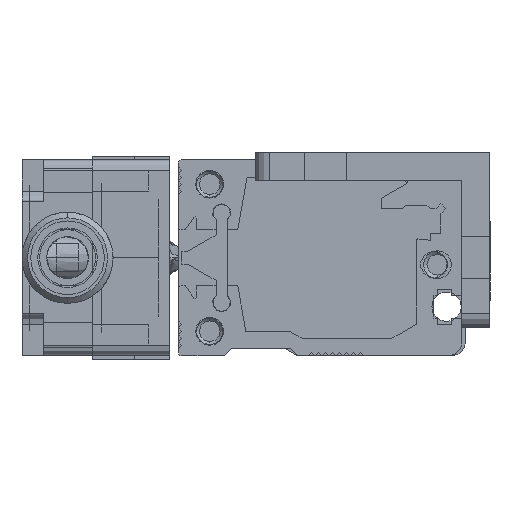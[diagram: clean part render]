
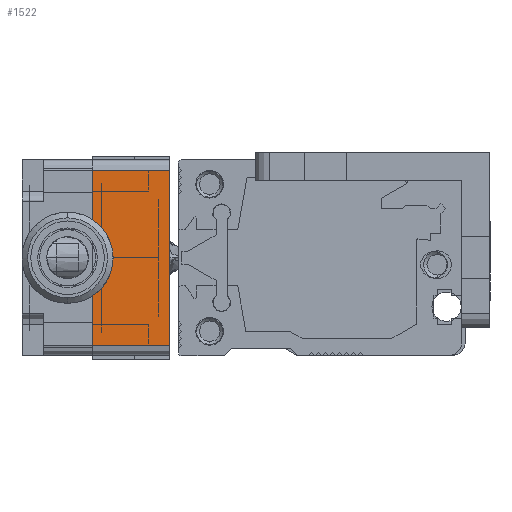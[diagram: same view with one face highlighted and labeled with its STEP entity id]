
A CAD part, left-side view. The second image highlights one B-rep face of the part: STEP entity #1522.
In plain terms, the highlighted planar face has unit normal (-1, 0, 0).
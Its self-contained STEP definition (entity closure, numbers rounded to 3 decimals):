
#1522 = ADVANCED_FACE ( 'NONE', ( #12526 ), #10939, .F. ) ;
#1745 = EDGE_LOOP ( 'NONE', ( #2548, #2549, #2551, #2553 ) ) ;
#2213 = AXIS2_PLACEMENT_3D ( 'NONE', #10940, #10936, #10934 ) ;
#2548 = ORIENTED_EDGE ( 'NONE', *, *, #7767, .T. ) ;
#2549 = ORIENTED_EDGE ( 'NONE', *, *, #7766, .F. ) ;
#2551 = ORIENTED_EDGE ( 'NONE', *, *, #7760, .F. ) ;
#2553 = ORIENTED_EDGE ( 'NONE', *, *, #7759, .F. ) ;
#4959 = VERTEX_POINT ( 'NONE', #9001 ) ;
#4967 = VERTEX_POINT ( 'NONE', #8981 ) ;
#4968 = VERTEX_POINT ( 'NONE', #8977 ) ;
#4972 = VERTEX_POINT ( 'NONE', #8966 ) ;
#7759 = EDGE_CURVE ( 'NONE', #4967, #4959, #18681, .T. ) ;
#7760 = EDGE_CURVE ( 'NONE', #4959, #4972, #18683, .T. ) ;
#7766 = EDGE_CURVE ( 'NONE', #4972, #4968, #18688, .T. ) ;
#7767 = EDGE_CURVE ( 'NONE', #4967, #4968, #18690, .T. ) ;
#8966 = CARTESIAN_POINT ( 'NONE',  ( -0.373, -45.718, 12.5 ) ) ;
#8977 = CARTESIAN_POINT ( 'NONE',  ( -0.373, -56.718, 12.5 ) ) ;
#8981 = CARTESIAN_POINT ( 'NONE',  ( -0.373, -56.718, -12.5 ) ) ;
#9001 = CARTESIAN_POINT ( 'NONE',  ( -0.373, -45.718, -12.5 ) ) ;
#10934 = DIRECTION ( 'NONE',  ( 0., 0., -1. ) ) ;
#10936 = DIRECTION ( 'NONE',  ( 1., 0., 0. ) ) ;
#10939 = PLANE ( 'NONE',  #2213 ) ;
#10940 = CARTESIAN_POINT ( 'NONE',  ( -0.373, -56.938, 13. ) ) ;
#12526 = FACE_OUTER_BOUND ( 'NONE', #1745, .T. ) ;
#15753 = CARTESIAN_POINT ( 'NONE',  ( -0.373, -56.938, -12.5 ) ) ;
#15754 = DIRECTION ( 'NONE',  ( 0., 1., 0. ) ) ;
#15755 = CARTESIAN_POINT ( 'NONE',  ( -0.373, -45.718, 15.08 ) ) ;
#15756 = DIRECTION ( 'NONE',  ( 0., 0., 1. ) ) ;
#15783 = CARTESIAN_POINT ( 'NONE',  ( -0.373, -45.718, 12.5 ) ) ;
#15784 = DIRECTION ( 'NONE',  ( 0., -1., 0. ) ) ;
#15785 = CARTESIAN_POINT ( 'NONE',  ( -0.373, -56.718, 15.08 ) ) ;
#15786 = DIRECTION ( 'NONE',  ( 0., 0., 1. ) ) ;
#18681 = LINE ( 'NONE', #15753, #18682 ) ;
#18682 = VECTOR ( 'NONE', #15754, 1000. ) ;
#18683 = LINE ( 'NONE', #15755, #18684 ) ;
#18684 = VECTOR ( 'NONE', #15756, 1000. ) ;
#18688 = LINE ( 'NONE', #15783, #18689 ) ;
#18689 = VECTOR ( 'NONE', #15784, 1000. ) ;
#18690 = LINE ( 'NONE', #15785, #18691 ) ;
#18691 = VECTOR ( 'NONE', #15786, 1000. ) ;
